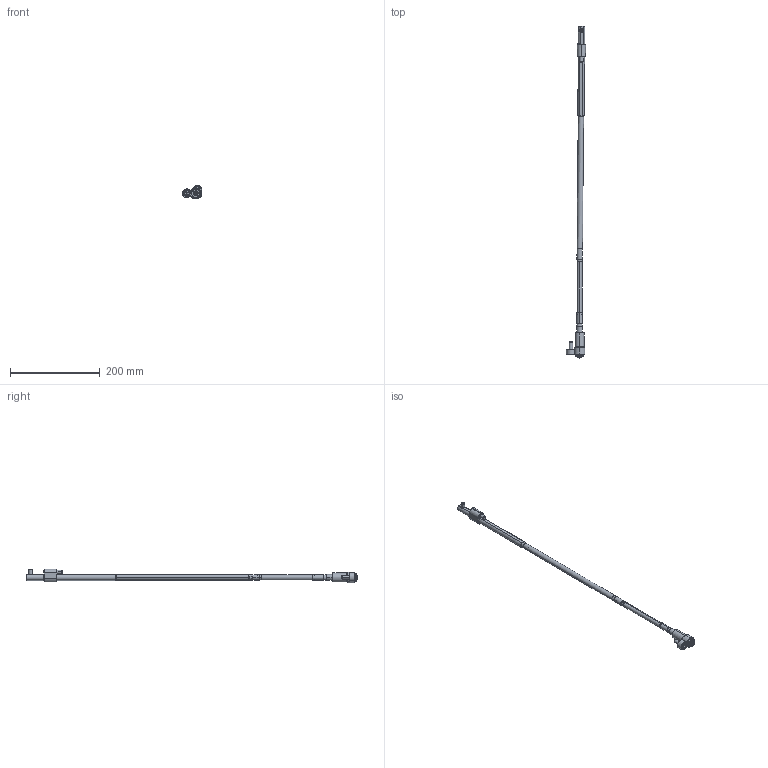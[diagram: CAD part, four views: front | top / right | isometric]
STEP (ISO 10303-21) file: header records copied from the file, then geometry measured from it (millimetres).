
FILE_DESCRIPTION (( 'STEP AP214' ), '1' );
FILE_NAME ('WL120100-INJ 0,5°.STEP', '2021-03-19T15:34:46', ( '' ), ( '' ), 'SwSTEP 2.0', 'SolidWorks 2019', '' );
FILE_SCHEMA (( 'AUTOMOTIVE_DESIGN' ));
Length unit declared in the file: millimetre
Products named in the file (17): 1DIN912820_DIN 912 M8 x 20 --- 20C; WL120100-B1; WL120100-B; Web-WL12-XX_OFF-WL120100-0,5; 8WL12EJEP; Web-WL12-A1; Web-WL12-A2; 9DR2808-TOR; 1DIN912645_DIN 912 M6 x 45 --- 45C; Web-WL12-A3; Web-WL12-F01; Web-WL12-A8; 3IMAN5X3-150_con sellador; WL120100-E; Web-WL12-F00.SLDPRT; WL120100-D; WL120100-INJ 0,5°
Assembly tree (16 placements, depth 3):
  WL120100-INJ 0,5°
    Web-WL12-A8
    Web-WL12-XX_OFF-WL120100-0,5
    Web-WL12-A3
    Web-WL12-A2
    Web-WL12-A1
    Web-WL12-F00.SLDPRT
      Web-WL12-F01
      1DIN912820_DIN 912 M8 x 20 --- 20C
      1DIN912645_DIN 912 M6 x 45 --- 45C
    WL120100-D
    8WL12EJEP
    WL120100-E
    9DR2808-TOR
    WL120100-B
      WL120100-B1
      3IMAN5X3-150_con sellador
Bounding box: 42.61 x 738.04 x 29.9 mm (x, y, z)
Volume: 113342.2 mm3; surface area: 49842.5 mm2
Topology: 15 solids, 15 shells, 432 faces, 906 edges, 525 vertices
Faces by surface type: plane 139, cylinder 123, cone 120, torus 50
Entity records: 13661 total; most frequent: DIRECTION 2240, CARTESIAN_POINT 2104, ORIENTED_EDGE 1788, AXIS2_PLACEMENT_3D 929, EDGE_CURVE 894, VERTEX_POINT 525, EDGE_LOOP 477, CIRCLE 476
